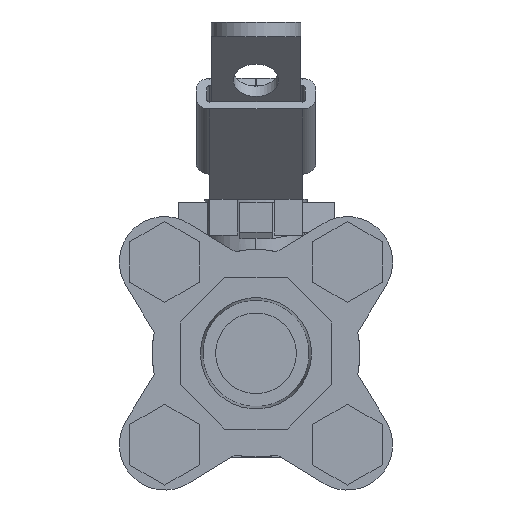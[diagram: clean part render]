
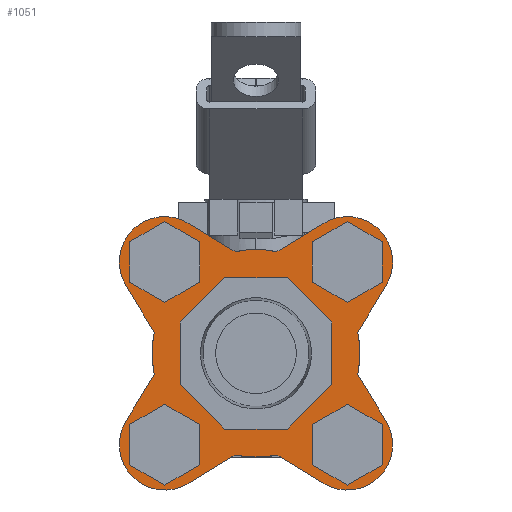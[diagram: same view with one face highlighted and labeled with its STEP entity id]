
A CAD part, left-side view. The second image highlights one B-rep face of the part: STEP entity #1051.
In plain terms, the highlighted planar face has unit normal (-1, 0, 0).
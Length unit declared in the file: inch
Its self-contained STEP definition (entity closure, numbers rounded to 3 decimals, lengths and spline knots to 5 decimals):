
#425=CARTESIAN_POINT('',(0.56,-0.76544,0.01558));
#426=VERTEX_POINT('',#425);
#427=CARTESIAN_POINT('',(0.56,-0.63993,-0.10993));
#428=DIRECTION('',(-1.0,0.,0.));
#429=DIRECTION('',(0.,-0.707,0.707));
#430=AXIS2_PLACEMENT_3D('',#427,#428,#429);
#431=CIRCLE('',#430,0.1775);
#432=EDGE_CURVE('',#426,#426,#431,.T.);
#452=CARTESIAN_POINT('',(0.56,-0.71253,0.38316));
#453=VERTEX_POINT('',#452);
#460=CARTESIAN_POINT('',(0.56,-0.91152,0.05452));
#461=VERTEX_POINT('',#460);
#462=CARTESIAN_POINT('',(0.56,-0.71253,0.38316));
#463=DIRECTION('',(0.0,-0.518,-0.855));
#464=VECTOR('',#463,0.38419);
#465=LINE('',#462,#464);
#466=EDGE_CURVE('',#453,#461,#465,.T.);
#513=CARTESIAN_POINT('',(0.56,-0.47548,-0.38152));
#514=VERTEX_POINT('',#513);
#515=CARTESIAN_POINT('',(0.56,-0.63993,-0.10993));
#516=DIRECTION('',(1.0,0.,0.));
#517=DIRECTION('',(0.,-0.707,-0.707));
#518=AXIS2_PLACEMENT_3D('',#515,#516,#517);
#519=CIRCLE('',#518,0.3175);
#520=EDGE_CURVE('',#461,#514,#519,.T.);
#545=CARTESIAN_POINT('',(0.56,-0.14684,-0.18253));
#546=VERTEX_POINT('',#545);
#547=CARTESIAN_POINT('',(0.56,-0.47548,-0.38152));
#548=DIRECTION('',(0.0,0.855,0.518));
#549=VECTOR('',#548,0.38419);
#550=LINE('',#547,#549);
#551=EDGE_CURVE('',#514,#546,#550,.T.);
#608=CARTESIAN_POINT('',(0.56,0.14684,-0.18253));
#609=VERTEX_POINT('',#608);
#610=CARTESIAN_POINT('',(0.56,0.0,0.53));
#611=DIRECTION('',(1.0,0.,0.));
#612=DIRECTION('',(0.,0.707,0.707));
#613=AXIS2_PLACEMENT_3D('',#610,#611,#612);
#614=CIRCLE('',#613,0.7275);
#615=EDGE_CURVE('',#546,#609,#614,.T.);
#643=CARTESIAN_POINT('',(0.56,0.71253,0.38316));
#644=VERTEX_POINT('',#643);
#651=CARTESIAN_POINT('',(0.56,0.71253,0.67684));
#652=VERTEX_POINT('',#651);
#653=CARTESIAN_POINT('',(0.56,0.0,0.53));
#654=DIRECTION('',(1.0,0.,0.));
#655=DIRECTION('',(0.,0.707,0.707));
#656=AXIS2_PLACEMENT_3D('',#653,#654,#655);
#657=CIRCLE('',#656,0.7275);
#658=EDGE_CURVE('',#644,#652,#657,.T.);
#686=CARTESIAN_POINT('',(0.56,0.14684,1.24253));
#687=VERTEX_POINT('',#686);
#694=CARTESIAN_POINT('',(0.56,-0.14684,1.24253));
#695=VERTEX_POINT('',#694);
#696=CARTESIAN_POINT('',(0.56,0.0,0.53));
#697=DIRECTION('',(1.0,0.,0.));
#698=DIRECTION('',(0.,0.707,0.707));
#699=AXIS2_PLACEMENT_3D('',#696,#697,#698);
#700=CIRCLE('',#699,0.7275);
#701=EDGE_CURVE('',#687,#695,#700,.T.);
#729=CARTESIAN_POINT('',(0.56,-0.71253,0.67684));
#730=VERTEX_POINT('',#729);
#737=CARTESIAN_POINT('',(0.56,0.0,0.53));
#738=DIRECTION('',(1.0,0.,0.));
#739=DIRECTION('',(0.,0.707,0.707));
#740=AXIS2_PLACEMENT_3D('',#737,#738,#739);
#741=CIRCLE('',#740,0.7275);
#742=EDGE_CURVE('',#730,#453,#741,.T.);
#773=CARTESIAN_POINT('',(0.56,0.76544,0.01558));
#774=VERTEX_POINT('',#773);
#775=CARTESIAN_POINT('',(0.56,0.63993,-0.10993));
#776=DIRECTION('',(1.0,0.,0.));
#777=DIRECTION('',(0.,0.707,0.707));
#778=AXIS2_PLACEMENT_3D('',#775,#776,#777);
#779=CIRCLE('',#778,0.1775);
#780=EDGE_CURVE('',#774,#774,#779,.T.);
#807=CARTESIAN_POINT('',(0.56,0.91152,0.05452));
#808=VERTEX_POINT('',#807);
#815=CARTESIAN_POINT('',(0.56,0.71253,0.38316));
#816=DIRECTION('',(0.0,0.518,-0.855));
#817=VECTOR('',#816,0.38419);
#818=LINE('',#815,#817);
#819=EDGE_CURVE('',#644,#808,#818,.T.);
#839=CARTESIAN_POINT('',(0.56,0.47548,-0.38152));
#840=VERTEX_POINT('',#839);
#847=CARTESIAN_POINT('',(0.56,0.63993,-0.10993));
#848=DIRECTION('',(-1.0,0.,0.));
#849=DIRECTION('',(0.,0.707,-0.707));
#850=AXIS2_PLACEMENT_3D('',#847,#848,#849);
#851=CIRCLE('',#850,0.3175);
#852=EDGE_CURVE('',#808,#840,#851,.T.);
#870=CARTESIAN_POINT('',(0.56,0.47548,-0.38152));
#871=DIRECTION('',(0.0,-0.855,0.518));
#872=VECTOR('',#871,0.38419);
#873=LINE('',#870,#872);
#874=EDGE_CURVE('',#840,#609,#873,.T.);
#894=CARTESIAN_POINT('',(0.56,0.0,0.53));
#895=DIRECTION('',(1.0,0.0,0.0));
#896=DIRECTION('',(0.0,0.707,-0.707));
#897=AXIS2_PLACEMENT_3D('',#894,#895,#896);
#898=PLANE('',#897);
#899=ORIENTED_EDGE('',*,*,#742,.F.);
#900=CARTESIAN_POINT('',(0.56,-0.91152,1.00548));
#901=VERTEX_POINT('',#900);
#902=CARTESIAN_POINT('',(0.56,-0.91152,1.00548));
#903=DIRECTION('',(0.0,0.518,-0.855));
#904=VECTOR('',#903,0.38419);
#905=LINE('',#902,#904);
#906=EDGE_CURVE('',#901,#730,#905,.T.);
#907=ORIENTED_EDGE('',*,*,#906,.F.);
#908=CARTESIAN_POINT('',(0.56,-0.47548,1.44152));
#909=VERTEX_POINT('',#908);
#910=CARTESIAN_POINT('',(0.56,-0.63993,1.16993));
#911=DIRECTION('',(1.0,0.,0.));
#912=DIRECTION('',(0.,-0.707,0.707));
#913=AXIS2_PLACEMENT_3D('',#910,#911,#912);
#914=CIRCLE('',#913,0.3175);
#915=EDGE_CURVE('',#909,#901,#914,.T.);
#916=ORIENTED_EDGE('',*,*,#915,.F.);
#917=CARTESIAN_POINT('',(0.56,-0.14684,1.24253));
#918=DIRECTION('',(0.0,-0.855,0.518));
#919=VECTOR('',#918,0.38419);
#920=LINE('',#917,#919);
#921=EDGE_CURVE('',#695,#909,#920,.T.);
#922=ORIENTED_EDGE('',*,*,#921,.F.);
#923=ORIENTED_EDGE('',*,*,#701,.F.);
#924=CARTESIAN_POINT('',(0.56,0.47548,1.44152));
#925=VERTEX_POINT('',#924);
#926=CARTESIAN_POINT('',(0.56,0.14684,1.24253));
#927=DIRECTION('',(0.0,0.855,0.518));
#928=VECTOR('',#927,0.38419);
#929=LINE('',#926,#928);
#930=EDGE_CURVE('',#687,#925,#929,.T.);
#931=ORIENTED_EDGE('',*,*,#930,.T.);
#932=CARTESIAN_POINT('',(0.56,0.91152,1.00548));
#933=VERTEX_POINT('',#932);
#934=CARTESIAN_POINT('',(0.56,0.63993,1.16993));
#935=DIRECTION('',(-1.0,0.,0.));
#936=DIRECTION('',(0.,0.707,0.707));
#937=AXIS2_PLACEMENT_3D('',#934,#935,#936);
#938=CIRCLE('',#937,0.3175);
#939=EDGE_CURVE('',#925,#933,#938,.T.);
#940=ORIENTED_EDGE('',*,*,#939,.T.);
#941=CARTESIAN_POINT('',(0.56,0.91152,1.00548));
#942=DIRECTION('',(0.0,-0.518,-0.855));
#943=VECTOR('',#942,0.38419);
#944=LINE('',#941,#943);
#945=EDGE_CURVE('',#933,#652,#944,.T.);
#946=ORIENTED_EDGE('',*,*,#945,.T.);
#947=ORIENTED_EDGE('',*,*,#658,.F.);
#948=ORIENTED_EDGE('',*,*,#819,.T.);
#949=ORIENTED_EDGE('',*,*,#852,.T.);
#950=ORIENTED_EDGE('',*,*,#874,.T.);
#951=ORIENTED_EDGE('',*,*,#615,.F.);
#952=ORIENTED_EDGE('',*,*,#551,.F.);
#953=ORIENTED_EDGE('',*,*,#520,.F.);
#954=ORIENTED_EDGE('',*,*,#466,.F.);
#955=EDGE_LOOP('',(#899,#907,#916,#922,#923,#931,#940,#946,#947,#948,#949,#950,#951,#952,#953,#954));
#956=FACE_OUTER_BOUND('',#955,.T.);
#957=ORIENTED_EDGE('',*,*,#432,.F.);
#958=EDGE_LOOP('',(#957));
#959=FACE_BOUND('',#958,.T.);
#960=CARTESIAN_POINT('',(0.56,-0.53,0.31047));
#961=VERTEX_POINT('',#960);
#962=CARTESIAN_POINT('',(0.56,-0.53,0.74953));
#963=VERTEX_POINT('',#962);
#964=CARTESIAN_POINT('',(0.56,-0.53,0.31047));
#965=DIRECTION('',(0.0,0.0,1.0));
#966=VECTOR('',#965,0.43907);
#967=LINE('',#964,#966);
#968=EDGE_CURVE('',#961,#963,#967,.T.);
#969=ORIENTED_EDGE('',*,*,#968,.F.);
#970=CARTESIAN_POINT('',(0.56,-0.21953,0.0));
#971=VERTEX_POINT('',#970);
#972=CARTESIAN_POINT('',(0.56,-0.21953,0.));
#973=DIRECTION('',(0.0,-0.707,0.707));
#974=VECTOR('',#973,0.43907);
#975=LINE('',#972,#974);
#976=EDGE_CURVE('',#971,#961,#975,.T.);
#977=ORIENTED_EDGE('',*,*,#976,.F.);
#978=CARTESIAN_POINT('',(0.56,0.21953,0.0));
#979=VERTEX_POINT('',#978);
#980=CARTESIAN_POINT('',(0.56,0.21953,0.));
#981=DIRECTION('',(0.0,-1.0,0.0));
#982=VECTOR('',#981,0.43907);
#983=LINE('',#980,#982);
#984=EDGE_CURVE('',#979,#971,#983,.T.);
#985=ORIENTED_EDGE('',*,*,#984,.F.);
#986=CARTESIAN_POINT('',(0.56,0.53,0.31047));
#987=VERTEX_POINT('',#986);
#988=CARTESIAN_POINT('',(0.56,0.53,0.31047));
#989=DIRECTION('',(0.0,-0.707,-0.707));
#990=VECTOR('',#989,0.43907);
#991=LINE('',#988,#990);
#992=EDGE_CURVE('',#987,#979,#991,.T.);
#993=ORIENTED_EDGE('',*,*,#992,.F.);
#994=CARTESIAN_POINT('',(0.56,0.53,0.74953));
#995=VERTEX_POINT('',#994);
#996=CARTESIAN_POINT('',(0.56,0.53,0.74953));
#997=DIRECTION('',(0.0,0.0,-1.0));
#998=VECTOR('',#997,0.43907);
#999=LINE('',#996,#998);
#1000=EDGE_CURVE('',#995,#987,#999,.T.);
#1001=ORIENTED_EDGE('',*,*,#1000,.F.);
#1002=CARTESIAN_POINT('',(0.56,0.21953,1.06));
#1003=VERTEX_POINT('',#1002);
#1004=CARTESIAN_POINT('',(0.56,0.21953,1.06));
#1005=DIRECTION('',(0.0,0.707,-0.707));
#1006=VECTOR('',#1005,0.43907);
#1007=LINE('',#1004,#1006);
#1008=EDGE_CURVE('',#1003,#995,#1007,.T.);
#1009=ORIENTED_EDGE('',*,*,#1008,.F.);
#1010=CARTESIAN_POINT('',(0.56,-0.21953,1.06));
#1011=VERTEX_POINT('',#1010);
#1012=CARTESIAN_POINT('',(0.56,-0.21953,1.06));
#1013=DIRECTION('',(0.0,1.0,0.0));
#1014=VECTOR('',#1013,0.43907);
#1015=LINE('',#1012,#1014);
#1016=EDGE_CURVE('',#1011,#1003,#1015,.T.);
#1017=ORIENTED_EDGE('',*,*,#1016,.F.);
#1018=CARTESIAN_POINT('',(0.56,-0.53,0.74953));
#1019=DIRECTION('',(0.0,0.707,0.707));
#1020=VECTOR('',#1019,0.43907);
#1021=LINE('',#1018,#1020);
#1022=EDGE_CURVE('',#963,#1011,#1021,.T.);
#1023=ORIENTED_EDGE('',*,*,#1022,.F.);
#1024=EDGE_LOOP('',(#969,#977,#985,#993,#1001,#1009,#1017,#1023));
#1025=FACE_BOUND('',#1024,.T.);
#1026=ORIENTED_EDGE('',*,*,#780,.T.);
#1027=EDGE_LOOP('',(#1026));
#1028=FACE_BOUND('',#1027,.T.);
#1029=CARTESIAN_POINT('',(0.56,-0.51442,1.29544));
#1030=VERTEX_POINT('',#1029);
#1031=CARTESIAN_POINT('',(0.56,-0.63993,1.16993));
#1032=DIRECTION('',(-1.0,0.,0.));
#1033=DIRECTION('',(0.,0.707,0.707));
#1034=AXIS2_PLACEMENT_3D('',#1031,#1032,#1033);
#1035=CIRCLE('',#1034,0.1775);
#1036=EDGE_CURVE('',#1030,#1030,#1035,.T.);
#1037=ORIENTED_EDGE('',*,*,#1036,.F.);
#1038=EDGE_LOOP('',(#1037));
#1039=FACE_BOUND('',#1038,.T.);
#1040=CARTESIAN_POINT('',(0.56,0.51442,1.29544));
#1041=VERTEX_POINT('',#1040);
#1042=CARTESIAN_POINT('',(0.56,0.63993,1.16993));
#1043=DIRECTION('',(1.0,0.,0.));
#1044=DIRECTION('',(0.,-0.707,0.707));
#1045=AXIS2_PLACEMENT_3D('',#1042,#1043,#1044);
#1046=CIRCLE('',#1045,0.1775);
#1047=EDGE_CURVE('',#1041,#1041,#1046,.T.);
#1048=ORIENTED_EDGE('',*,*,#1047,.T.);
#1049=EDGE_LOOP('',(#1048));
#1050=FACE_BOUND('',#1049,.T.);
#1051=ADVANCED_FACE('',(#956,#959,#1025,#1028,#1039,#1050),#898,.F.);
